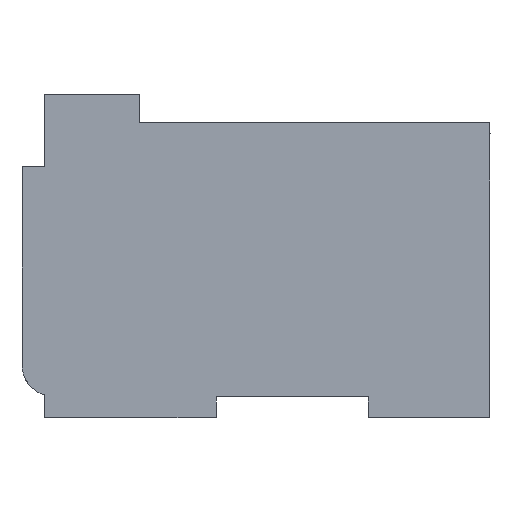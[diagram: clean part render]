
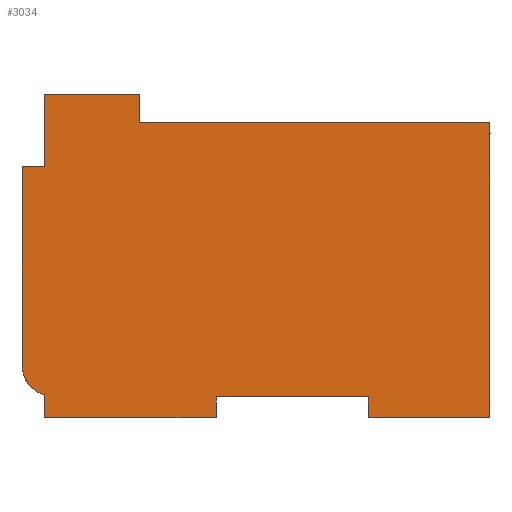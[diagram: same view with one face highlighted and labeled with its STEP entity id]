
A CAD part, front view. The second image highlights one B-rep face of the part: STEP entity #3034.
In plain terms, the highlighted planar face has unit normal (0, -1, 0).
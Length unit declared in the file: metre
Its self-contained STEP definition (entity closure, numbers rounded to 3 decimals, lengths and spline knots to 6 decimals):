
#38=CIRCLE('',#4044,0.0008);
#633=ORIENTED_EDGE('',*,*,#1248,.F.);
#634=ORIENTED_EDGE('',*,*,#1249,.F.);
#635=ORIENTED_EDGE('',*,*,#1250,.F.);
#636=ORIENTED_EDGE('',*,*,#1251,.F.);
#637=ORIENTED_EDGE('',*,*,#1141,.F.);
#638=ORIENTED_EDGE('',*,*,#1027,.T.);
#639=ORIENTED_EDGE('',*,*,#1169,.F.);
#640=ORIENTED_EDGE('',*,*,#1252,.F.);
#641=ORIENTED_EDGE('',*,*,#1253,.F.);
#642=ORIENTED_EDGE('',*,*,#1246,.F.);
#643=ORIENTED_EDGE('',*,*,#1254,.F.);
#644=ORIENTED_EDGE('',*,*,#1255,.T.);
#645=ORIENTED_EDGE('',*,*,#1031,.F.);
#646=ORIENTED_EDGE('',*,*,#1109,.T.);
#1027=EDGE_CURVE('',#1411,#1410,#1699,.T.);
#1031=EDGE_CURVE('',#1414,#1415,#1703,.T.);
#1109=EDGE_CURVE('',#1414,#1480,#1781,.T.);
#1141=EDGE_CURVE('',#1411,#1493,#1813,.T.);
#1169=EDGE_CURVE('',#1505,#1410,#38,.T.);
#1246=EDGE_CURVE('',#1553,#1554,#1907,.T.);
#1248=EDGE_CURVE('',#1555,#1480,#1909,.T.);
#1249=EDGE_CURVE('',#1556,#1555,#1910,.T.);
#1250=EDGE_CURVE('',#1557,#1556,#1911,.T.);
#1251=EDGE_CURVE('',#1493,#1557,#1912,.T.);
#1252=EDGE_CURVE('',#1558,#1505,#1913,.T.);
#1253=EDGE_CURVE('',#1554,#1558,#1914,.T.);
#1254=EDGE_CURVE('',#1559,#1553,#1915,.T.);
#1255=EDGE_CURVE('',#1559,#1415,#1916,.T.);
#1410=VERTEX_POINT('',#5125);
#1411=VERTEX_POINT('',#5127);
#1414=VERTEX_POINT('',#5134);
#1415=VERTEX_POINT('',#5136);
#1480=VERTEX_POINT('',#5297);
#1493=VERTEX_POINT('',#5356);
#1505=VERTEX_POINT('',#5413);
#1553=VERTEX_POINT('',#5568);
#1554=VERTEX_POINT('',#5570);
#1555=VERTEX_POINT('',#5574);
#1556=VERTEX_POINT('',#5576);
#1557=VERTEX_POINT('',#5578);
#1558=VERTEX_POINT('',#5581);
#1559=VERTEX_POINT('',#5584);
#1699=LINE('',#5126,#2083);
#1703=LINE('',#5135,#2087);
#1781=LINE('',#5298,#2165);
#1813=LINE('',#5355,#2197);
#1907=LINE('',#5569,#2291);
#1909=LINE('',#5573,#2293);
#1910=LINE('',#5575,#2294);
#1911=LINE('',#5577,#2295);
#1912=LINE('',#5579,#2296);
#1913=LINE('',#5580,#2297);
#1914=LINE('',#5582,#2298);
#1915=LINE('',#5583,#2299);
#1916=LINE('',#5585,#2300);
#2083=VECTOR('',#4326,1.);
#2087=VECTOR('',#4332,1.);
#2165=VECTOR('',#4448,1.);
#2197=VECTOR('',#4506,1.);
#2291=VECTOR('',#4710,1.);
#2293=VECTOR('',#4714,1.);
#2294=VECTOR('',#4715,1.);
#2295=VECTOR('',#4716,1.);
#2296=VECTOR('',#4717,1.);
#2297=VECTOR('',#4718,1.);
#2298=VECTOR('',#4719,1.);
#2299=VECTOR('',#4720,1.);
#2300=VECTOR('',#4721,1.);
#2471=EDGE_LOOP('',(#633,#634,#635,#636,#637,#638,#639,#640,#641,#642,#643,
#644,#645,#646));
#2615=FACE_BOUND('',#2471,.T.);
#2747=PLANE('',#4081);
#3034=ADVANCED_FACE('',(#2615),#2747,.F.);
#4044=AXIS2_PLACEMENT_3D('',#5414,#4566,#4567);
#4081=AXIS2_PLACEMENT_3D('',#5572,#4712,#4713);
#4326=DIRECTION('',(0.,0.,-1.));
#4332=DIRECTION('',(-1.,0.,0.));
#4448=DIRECTION('',(0.,0.,1.));
#4506=DIRECTION('',(1.,0.,0.));
#4566=DIRECTION('',(0.,1.,0.));
#4567=DIRECTION('',(-1.,0.,0.));
#4710=DIRECTION('',(0.,0.,-1.));
#4712=DIRECTION('',(0.,1.,0.));
#4713=DIRECTION('',(0.,0.,1.));
#4714=DIRECTION('',(1.,0.,0.));
#4715=DIRECTION('',(0.,0.,-1.));
#4716=DIRECTION('',(1.,0.,0.));
#4717=DIRECTION('',(0.,0.,1.));
#4718=DIRECTION('',(0.,0.,1.));
#4719=DIRECTION('',(-1.,0.,0.));
#4720=DIRECTION('',(-1.,0.,0.));
#4721=DIRECTION('',(0.,0.,-1.));
#5125=CARTESIAN_POINT('',(0.134912,-0.1113,0.00412));
#5126=CARTESIAN_POINT('',(0.134912,-0.1113,0.006732));
#5127=CARTESIAN_POINT('',(0.134912,-0.1113,0.009345));
#5134=CARTESIAN_POINT('',(0.147212,-0.1113,0.002745));
#5135=CARTESIAN_POINT('',(0.147212,-0.1113,0.002745));
#5136=CARTESIAN_POINT('',(0.144012,-0.1113,0.002745));
#5297=CARTESIAN_POINT('',(0.147212,-0.1113,0.010495));
#5298=CARTESIAN_POINT('',(0.147212,-0.1113,0.00662));
#5355=CARTESIAN_POINT('',(0.135212,-0.1113,0.009345));
#5356=CARTESIAN_POINT('',(0.135512,-0.1113,0.009345));
#5413=CARTESIAN_POINT('',(0.135512,-0.1113,0.003345));
#5414=CARTESIAN_POINT('',(0.135712,-0.1113,0.00412));
#5568=CARTESIAN_POINT('',(0.140012,-0.1113,0.003295));
#5569=CARTESIAN_POINT('',(0.140012,-0.1113,0.00302));
#5570=CARTESIAN_POINT('',(0.140012,-0.1113,0.002745));
#5572=CARTESIAN_POINT('',(0.138212,-0.1113,0.006845));
#5573=CARTESIAN_POINT('',(0.142612,-0.1113,0.010495));
#5574=CARTESIAN_POINT('',(0.138012,-0.1113,0.010495));
#5575=CARTESIAN_POINT('',(0.138012,-0.1113,0.01087));
#5576=CARTESIAN_POINT('',(0.138012,-0.1113,0.011245));
#5577=CARTESIAN_POINT('',(0.136762,-0.1113,0.011245));
#5578=CARTESIAN_POINT('',(0.135512,-0.1113,0.011245));
#5579=CARTESIAN_POINT('',(0.135512,-0.1113,0.010295));
#5580=CARTESIAN_POINT('',(0.135512,-0.1113,0.003045));
#5581=CARTESIAN_POINT('',(0.135512,-0.1113,0.002745));
#5582=CARTESIAN_POINT('',(0.137762,-0.1113,0.002745));
#5583=CARTESIAN_POINT('',(0.142012,-0.1113,0.003295));
#5584=CARTESIAN_POINT('',(0.144012,-0.1113,0.003295));
#5585=CARTESIAN_POINT('',(0.144012,-0.1113,0.00302));
